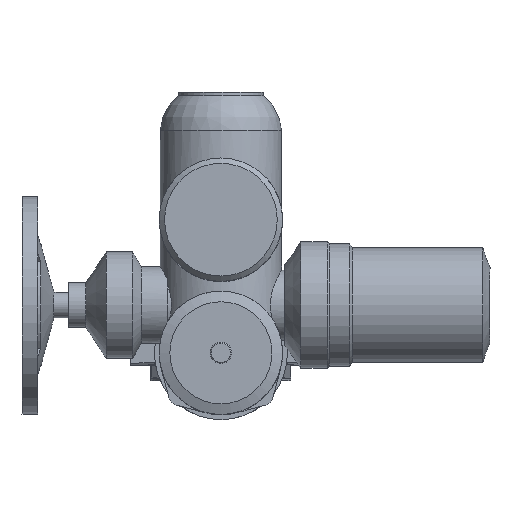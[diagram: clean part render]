
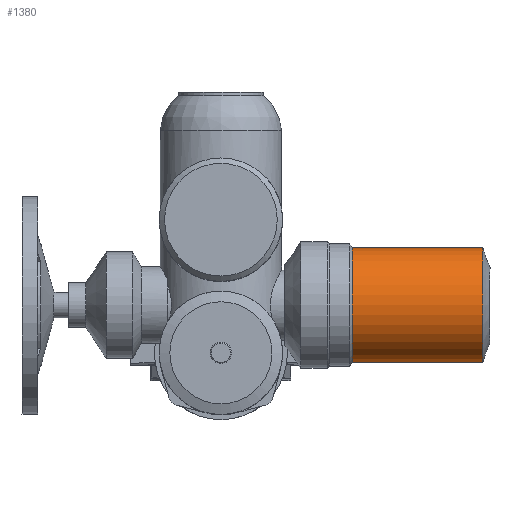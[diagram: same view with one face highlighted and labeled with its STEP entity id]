
A CAD part, top view. The second image highlights one B-rep face of the part: STEP entity #1380.
In plain terms, the highlighted cylindrical face has radius 54 mm (diameter 108 mm), a full revolution.
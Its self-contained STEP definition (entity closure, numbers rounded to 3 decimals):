
#1380=ADVANCED_FACE('',(#3308,#3310),#3312,.T.);
#3308=FACE_OUTER_BOUND('',#3309,.T.);
#3309=EDGE_LOOP('',(#4696));
#3310=FACE_OUTER_BOUND('',#3311,.T.);
#3311=EDGE_LOOP('',(#4697));
#3312=CYLINDRICAL_SURFACE('',#3313,54.);
#3313=AXIS2_PLACEMENT_3D('',#3314,#3315,#3316);
#3314=CARTESIAN_POINT('',(246.085,45.,392.));
#3315=DIRECTION('',(-1.,0.,0.));
#3316=DIRECTION('',(0.,0.,1.));
#4696=ORIENTED_EDGE('',*,*,#5515,.T.);
#4697=ORIENTED_EDGE('',*,*,#5449,.F.);
#5449=EDGE_CURVE('',#6244,#6244,#6245,.T.);
#5515=EDGE_CURVE('',#6360,#6360,#6361,.T.);
#6244=VERTEX_POINT('',#9029);
#6245=CIRCLE('',#9030,54.);
#6360=VERTEX_POINT('',#9297);
#6361=CIRCLE('',#9298,54.);
#9029=CARTESIAN_POINT('',(123.505,45.,446.));
#9030=AXIS2_PLACEMENT_3D('',#9031,#9032,#9033);
#9031=CARTESIAN_POINT('',(123.505,45.,392.));
#9032=DIRECTION('',(-1.,0.,0.));
#9033=DIRECTION('',(0.,0.,1.));
#9297=CARTESIAN_POINT('',(246.085,45.,446.));
#9298=AXIS2_PLACEMENT_3D('',#9299,#9300,#9301);
#9299=CARTESIAN_POINT('',(246.085,45.,392.));
#9300=DIRECTION('',(-1.,0.,0.));
#9301=DIRECTION('',(0.,0.,1.));
